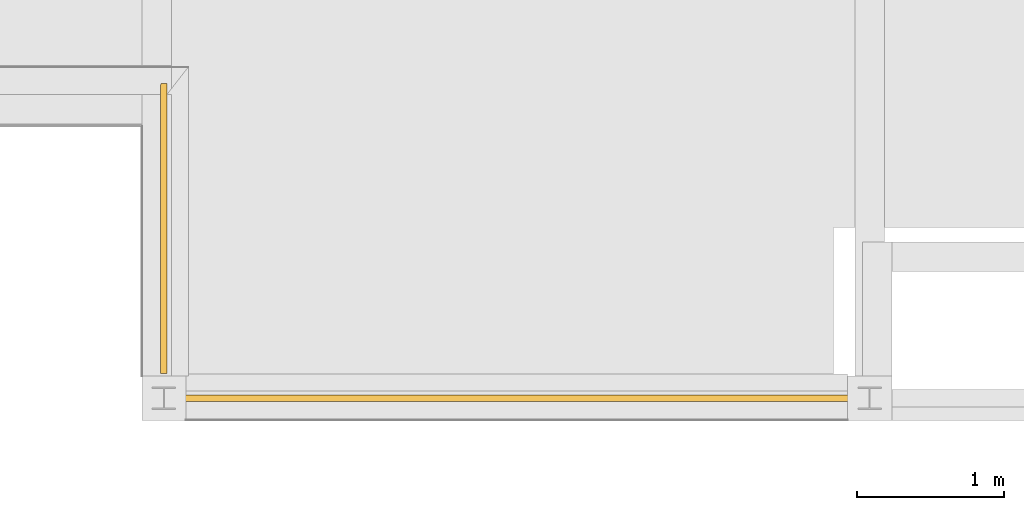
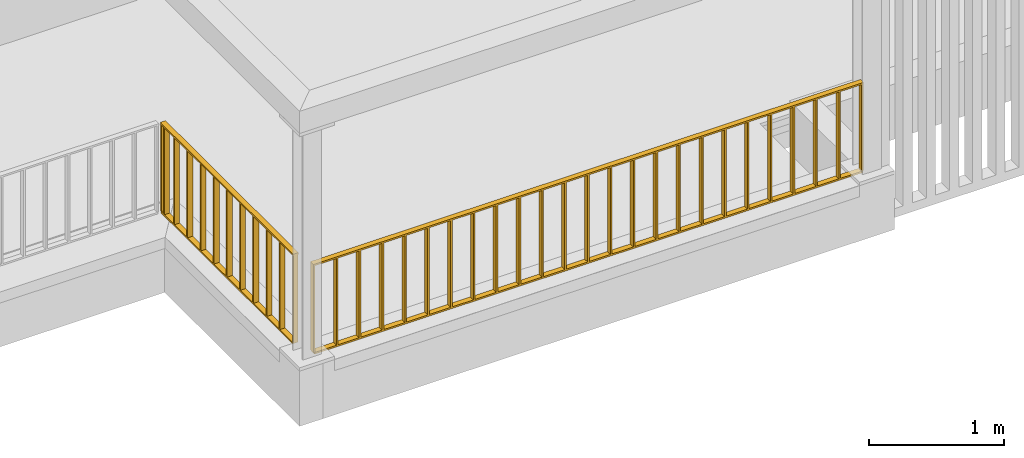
# One storey, part 21 of 36: 2 railings.
"""IFC4 building model written with IfcOpenShell, lengths in millimetres."""

from ifc_helpers import new_model, entity, si_unit, converted_unit, derived_unit, direction, frame, origin_with_axes, place, context, subcontext, project, spatial, polygons, material, constituent, constituent_set, type_object, element, save


model = new_model("IFC4")

# Units and contexts
model_context = context("Model", 3, precision=0.01, world=origin_with_axes(), true_north=direction((0.0, 1.0)))
body_context = subcontext(model_context, "Body", "Model", "MODEL_VIEW")
ifc_project = project(units=[si_unit("LENGTHUNIT", "METRE", prefix="MILLI"), si_unit("AREAUNIT", "SQUARE_METRE"), si_unit("VOLUMEUNIT", "CUBIC_METRE"), converted_unit("PLANEANGLEUNIT", "DEGREE", entity("IfcPlaneAngleMeasure", 0.0174532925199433), si_unit("PLANEANGLEUNIT", "RADIAN"), dimensions=[0, 0, 0, 0, 0, 0, 0]), converted_unit("TIMEUNIT", "Year", entity("IfcTimeMeasure", 31557600.0), si_unit("TIMEUNIT", "SECOND"), dimensions=[0, 0, 1, 0, 0, 0, 0]), si_unit("MASSUNIT", "GRAM", prefix="KILO"), si_unit("THERMODYNAMICTEMPERATUREUNIT", "DEGREE_CELSIUS"), si_unit("LUMINOUSINTENSITYUNIT", "LUMEN"), si_unit("ENERGYUNIT", "JOULE", prefix="MEGA"), derived_unit("THERMALCONDUCTANCEUNIT", [(si_unit("POWERUNIT", "WATT"), 1), (si_unit("LENGTHUNIT", "METRE"), -1), (si_unit("THERMODYNAMICTEMPERATUREUNIT", "KELVIN"), -1)]), derived_unit("SPECIFICHEATCAPACITYUNIT", [(si_unit("ENERGYUNIT", "JOULE"), 1), (si_unit("MASSUNIT", "GRAM", prefix="KILO"), -1), (si_unit("THERMODYNAMICTEMPERATUREUNIT", "KELVIN"), -1)]), derived_unit("MASSDENSITYUNIT", [(si_unit("MASSUNIT", "GRAM", prefix="KILO"), 1), (si_unit("VOLUMEUNIT", "CUBIC_METRE"), -1)])], contexts=[model_context])

# Site, building, storey
site_placement = place(None, origin_with_axes())
site = spatial("IfcSite", under=ifc_project, at=site_placement, Name="Gelände", CompositionType="ELEMENT")
building_placement = place(site_placement, origin_with_axes())
building = spatial("IfcBuilding", under=site, at=building_placement, Name="Gebäude", CompositionType="ELEMENT")
storey_placement = place(building_placement, frame((0.0, 0.0, 8700.0), z_axis=(0.0, 0.0, 1.0), x_axis=(1.0, 0.0, 0.0)))
storey = spatial("IfcBuildingStorey", under=building, at=storey_placement, Name="Attika", CompositionType="ELEMENT", Elevation=8700.0)

# Railings
ifc_material = material(Name="Stahl")
ifc_constituent_1 = constituent(ifc_material, Name="Stahl 1")
ifc_constituent_2 = constituent(ifc_material, Name="Stahl 2")
ifc_constituent_3 = constituent(ifc_material, Name="Stahl 3")
ifc_constituent_4 = constituent(ifc_material, Name="Stahl 4")
ifc_constituent_5 = constituent(ifc_material, Name="Stahl 5")
ifc_constituent_6 = constituent(ifc_material, Name="Stahl 6")
ifc_constituent_7 = constituent(ifc_material, Name="Stahl 7")
ifc_constituent_8 = constituent(ifc_material, Name="Stahl 8")
ifc_constituent_9 = constituent(ifc_material, Name="Stahl 9")
ifc_constituent_10 = constituent(ifc_material, Name="Stahl 10")
ifc_constituent_11 = constituent(ifc_material, Name="Stahl 11")
ifc_constituent_12 = constituent(ifc_material, Name="Stahl 12")
ifc_constituent_13 = constituent(ifc_material, Name="Stahl 13")
ifc_constituent_14 = constituent(ifc_material, Name="Stahl 14")
ifc_constituent_15 = constituent(ifc_material, Name="Stahl 15")
ifc_constituent_16 = constituent(ifc_material, Name="Stahl 16")
ifc_constituent_17 = constituent(ifc_material, Name="Stahl 17")
ifc_constituent_18 = constituent(ifc_material, Name="Stahl 18")
ifc_constituent_set_1 = constituent_set(constituents=[ifc_constituent_1, ifc_constituent_2, ifc_constituent_3, ifc_constituent_4, ifc_constituent_5, ifc_constituent_6, ifc_constituent_7, ifc_constituent_8, ifc_constituent_9, ifc_constituent_10, ifc_constituent_11, ifc_constituent_12, ifc_constituent_13, ifc_constituent_14, ifc_constituent_15, ifc_constituent_16, ifc_constituent_17, ifc_constituent_18])
railing_type = type_object("IfcRailingType", Name="Geländerart", PredefinedType="NOTDEFINED")
railing_1_placement = place(storey_placement, frame((-3675.20418150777, 21082.25159272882, 519.9999999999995), z_axis=(0.0, 0.0, 1.0), x_axis=(0.0, 1.0, 0.0)))
element("IfcRailing", 1, at=railing_1_placement, inside=storey, type_object=railing_type, material=ifc_constituent_set_1, Name="Geländer-003", PredefinedType="NOTDEFINED", context=body_context, shape_type="Tessellation", body=[
    polygons([(196.5594620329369, 20.00000000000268, 0.0), (196.5594620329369, 20.00000000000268, 800.0000000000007), (196.5594620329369, -19.99999999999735, 800.0000000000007), (196.5594620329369, -19.99999999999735, 0.0), (181.5594620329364, 20.00000000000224, 0.0), (181.5594620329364, 20.00000000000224, 800.0000000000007), (181.5594620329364, -19.9999999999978, 800.0000000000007), (181.5594620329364, -19.9999999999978, 0.0)], [[[1, 2, 3, 4]], [[5, 6, 2, 1]], [[2, 6, 7, 3]], [[4, 3, 7, 8]], [[1, 4, 8, 5]], [[8, 7, 6, 5]]], closed=True),
    polygons([(189.0594620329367, 22.50000000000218, 800.0000000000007), (189.0594620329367, 22.50000000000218, 785.0000000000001), (181.5594620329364, 22.50000000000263, 785.0000000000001), (181.5594620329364, 22.50000000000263, 800.0000000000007), (189.0594620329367, -22.49999999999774, 800.0000000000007), (189.0594620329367, -22.49999999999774, 785.0000000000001), (181.5594620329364, -22.4999999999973, 785.0000000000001), (181.5594620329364, -22.4999999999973, 800.0000000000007)], [[[1, 2, 3, 4]], [[1, 5, 6, 2]], [[2, 6, 7, 3]], [[4, 3, 7, 8]], [[5, 1, 4, 8]], [[6, 5, 8, 7]]], closed=True),
    polygons([(2151.059462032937, 20.00000000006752, 0.0), (2151.059462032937, 20.00000000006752, 800.0000000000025), (2151.059462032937, -19.99999999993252, 800.0000000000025), (2151.059462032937, -19.99999999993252, 0.0), (2136.059462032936, 20.00000000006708, 0.0), (2136.059462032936, 20.00000000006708, 800.0000000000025), (2136.059462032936, -19.99999999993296, 800.0000000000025), (2136.059462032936, -19.99999999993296, 0.0)], [[[1, 2, 3, 4]], [[5, 6, 2, 1]], [[2, 6, 7, 3]], [[4, 3, 7, 8]], [[1, 4, 8, 5]], [[8, 7, 6, 5]]], closed=True),
    polygons([(2090.896496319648, -19.99999999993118, 0.0), (2090.896496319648, -19.99999999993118, 800.0000000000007), (2090.896496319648, 20.00000000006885, 800.0000000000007), (2090.896496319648, 20.00000000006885, 0.0), (2105.896496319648, -19.99999999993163, 0.0), (2105.896496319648, -19.99999999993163, 800.0000000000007), (2105.896496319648, 20.00000000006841, 800.0000000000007), (2105.896496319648, 20.00000000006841, 0.0)], [[[1, 2, 3, 4]], [[5, 6, 2, 1]], [[2, 6, 7, 3]], [[4, 3, 7, 8]], [[1, 4, 8, 5]], [[8, 7, 6, 5]]], closed=True),
    polygons([(2098.396496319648, 22.50000000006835, 800.0000000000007), (2098.396496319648, 22.50000000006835, 785.0000000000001), (2090.896496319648, 22.5000000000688, 785.0000000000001), (2090.896496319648, 22.5000000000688, 800.0000000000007), (2098.396496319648, -22.49999999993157, 800.0000000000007), (2098.396496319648, -22.49999999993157, 785.0000000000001), (2090.896496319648, -22.49999999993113, 785.0000000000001), (2090.896496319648, -22.49999999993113, 800.0000000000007)], [[[1, 2, 3, 4]], [[1, 5, 6, 2]], [[2, 6, 7, 3]], [[4, 3, 7, 8]], [[5, 1, 4, 8]], [[6, 5, 8, 7]]], closed=True),
    polygons([(189.0594620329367, -22.49999999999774, 0.9999999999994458), (189.0594620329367, -22.49999999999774, -14.00000000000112), (2143.559462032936, -22.49999999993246, -13.99999999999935), (2143.559462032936, -22.49999999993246, 1.000000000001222), (189.0594620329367, 22.50000000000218, 0.9999999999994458), (189.0594620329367, 22.50000000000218, -14.00000000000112), (2143.559462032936, 22.50000000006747, -13.99999999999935), (2143.559462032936, 22.50000000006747, 1.000000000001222)], [[[1, 2, 3, 4]], [[1, 5, 6, 2]], [[2, 6, 7, 3]], [[4, 3, 7, 8]], [[5, 1, 4, 8]], [[6, 5, 8, 7]]], closed=True),
    polygons([(189.0594620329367, -22.49999999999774, 800.0000000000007), (189.0594620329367, -22.49999999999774, 785.0000000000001), (2143.559462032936, -22.49999999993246, 785.0000000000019), (2143.559462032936, -22.49999999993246, 800.0000000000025), (189.0594620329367, 22.50000000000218, 800.0000000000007), (189.0594620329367, 22.50000000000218, 785.0000000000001), (2143.559462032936, 22.50000000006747, 785.0000000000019), (2143.559462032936, 22.50000000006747, 800.0000000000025)], [[[1, 2, 3, 4]], [[1, 5, 6, 2]], [[2, 6, 7, 3]], [[4, 3, 7, 8]], [[5, 1, 4, 8]], [[6, 5, 8, 7]]], closed=True),
    polygons([(392.009462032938, 22.50000000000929, 0.0), (392.009462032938, 22.50000000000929, 785.2293691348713), (392.009462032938, -22.49999999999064, 785.2293691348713), (392.009462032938, -22.49999999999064, 0.0), (377.0094620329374, 22.50000000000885, 0.0), (377.0094620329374, 22.50000000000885, 785.2293691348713), (377.0094620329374, -22.49999999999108, 785.2293691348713), (377.0094620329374, -22.49999999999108, 0.0)], [[[1, 2, 3, 4]], [[5, 6, 2, 1]], [[2, 6, 7, 3]], [[4, 3, 7, 8]], [[1, 4, 8, 5]], [[8, 7, 6, 5]]], closed=True),
    polygons([(587.4594620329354, 22.50000000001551, 0.0), (587.4594620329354, 22.50000000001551, 785.2293691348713), (587.4594620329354, -22.49999999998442, 785.2293691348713), (587.4594620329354, -22.49999999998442, 0.0), (572.4594620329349, 22.50000000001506, 0.0), (572.4594620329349, 22.50000000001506, 785.2293691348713), (572.4594620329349, -22.49999999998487, 785.2293691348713), (572.4594620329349, -22.49999999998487, 0.0)], [[[1, 2, 3, 4]], [[5, 6, 2, 1]], [[2, 6, 7, 3]], [[4, 3, 7, 8]], [[1, 4, 8, 5]], [[8, 7, 6, 5]]], closed=True),
    polygons([(782.9094620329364, 22.50000000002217, 0.0), (782.9094620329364, 22.50000000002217, 785.2293691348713), (782.9094620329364, -22.49999999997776, 785.2293691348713), (782.9094620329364, -22.49999999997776, 0.0), (767.9094620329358, 22.50000000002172, 0.0), (767.9094620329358, 22.50000000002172, 785.2293691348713), (767.9094620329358, -22.4999999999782, 785.2293691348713), (767.9094620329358, -22.4999999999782, 0.0)], [[[1, 2, 3, 4]], [[5, 6, 2, 1]], [[2, 6, 7, 3]], [[4, 3, 7, 8]], [[1, 4, 8, 5]], [[8, 7, 6, 5]]], closed=True),
    polygons([(978.3594620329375, 22.50000000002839, 0.0), (978.3594620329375, 22.50000000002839, 785.2293691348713), (978.3594620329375, -22.49999999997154, 785.2293691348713), (978.3594620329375, -22.49999999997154, 0.0), (963.3594620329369, 22.50000000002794, 0.0), (963.3594620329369, 22.50000000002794, 785.2293691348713), (963.3594620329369, -22.49999999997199, 785.2293691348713), (963.3594620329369, -22.49999999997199, 0.0)], [[[1, 2, 3, 4]], [[5, 6, 2, 1]], [[2, 6, 7, 3]], [[4, 3, 7, 8]], [[1, 4, 8, 5]], [[8, 7, 6, 5]]], closed=True),
    polygons([(1173.809462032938, 22.50000000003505, 0.0), (1173.809462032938, 22.50000000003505, 785.2293691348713), (1173.809462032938, -22.49999999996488, 785.2293691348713), (1173.809462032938, -22.49999999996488, 0.0), (1158.809462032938, 22.5000000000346, 0.0), (1158.809462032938, 22.5000000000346, 785.2293691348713), (1158.809462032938, -22.49999999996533, 785.2293691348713), (1158.809462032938, -22.49999999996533, 0.0)], [[[1, 2, 3, 4]], [[5, 6, 2, 1]], [[2, 6, 7, 3]], [[4, 3, 7, 8]], [[1, 4, 8, 5]], [[8, 7, 6, 5]]], closed=True),
    polygons([(1369.259462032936, 22.50000000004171, 0.0), (1369.259462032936, 22.50000000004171, 785.2293691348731), (1369.259462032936, -22.49999999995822, 785.2293691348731), (1369.259462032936, -22.49999999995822, 0.0), (1354.259462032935, 22.50000000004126, 0.0), (1354.259462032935, 22.50000000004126, 785.2293691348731), (1354.259462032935, -22.49999999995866, 785.2293691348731), (1354.259462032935, -22.49999999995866, 0.0)], [[[1, 2, 3, 4]], [[5, 6, 2, 1]], [[2, 6, 7, 3]], [[4, 3, 7, 8]], [[1, 4, 8, 5]], [[8, 7, 6, 5]]], closed=True),
    polygons([(1564.709462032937, 22.50000000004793, 0.0), (1564.709462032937, 22.50000000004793, 785.2293691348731), (1564.709462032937, -22.499999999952, 785.2293691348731), (1564.709462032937, -22.499999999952, 0.0), (1549.709462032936, 22.50000000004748, 0.0), (1549.709462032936, 22.50000000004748, 785.2293691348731), (1549.709462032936, -22.49999999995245, 785.2293691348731), (1549.709462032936, -22.49999999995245, 0.0)], [[[1, 2, 3, 4]], [[5, 6, 2, 1]], [[2, 6, 7, 3]], [[4, 3, 7, 8]], [[1, 4, 8, 5]], [[8, 7, 6, 5]]], closed=True),
    polygons([(1760.159462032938, 22.50000000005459, 0.0), (1760.159462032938, 22.50000000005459, 785.2293691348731), (1760.159462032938, -22.49999999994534, 785.2293691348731), (1760.159462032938, -22.49999999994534, 0.0), (1745.159462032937, 22.50000000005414, 0.0), (1745.159462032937, 22.50000000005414, 785.2293691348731), (1745.159462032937, -22.49999999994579, 785.2293691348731), (1745.159462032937, -22.49999999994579, 0.0)], [[[1, 2, 3, 4]], [[5, 6, 2, 1]], [[2, 6, 7, 3]], [[4, 3, 7, 8]], [[1, 4, 8, 5]], [[8, 7, 6, 5]]], closed=True),
    polygons([(1955.609462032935, 22.5000000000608, 0.0), (1955.609462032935, 22.5000000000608, 785.2293691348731), (1955.609462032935, -22.49999999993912, 785.2293691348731), (1955.609462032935, -22.49999999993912, 0.0), (1940.609462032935, 22.50000000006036, 0.0), (1940.609462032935, 22.50000000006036, 785.2293691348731), (1940.609462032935, -22.49999999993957, 785.2293691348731), (1940.609462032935, -22.49999999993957, 0.0)], [[[1, 2, 3, 4]], [[5, 6, 2, 1]], [[2, 6, 7, 3]], [[4, 3, 7, 8]], [[1, 4, 8, 5]], [[8, 7, 6, 5]]], closed=True),
    polygons([(2143.559462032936, 22.50000000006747, 1.000000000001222), (2143.559462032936, 22.50000000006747, -13.99999999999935), (2098.396496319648, 22.50000000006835, -14.00000000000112), (2098.396496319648, 22.50000000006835, 0.9999999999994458), (2143.559462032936, -22.49999999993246, 1.000000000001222), (2143.559462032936, -22.49999999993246, -13.99999999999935), (2098.396496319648, -22.49999999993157, -14.00000000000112), (2098.396496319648, -22.49999999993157, 0.9999999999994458)], [[[1, 2, 3, 4]], [[1, 5, 6, 2]], [[2, 6, 7, 3]], [[4, 3, 7, 8]], [[5, 1, 4, 8]], [[6, 5, 8, 7]]], closed=True),
    polygons([(2143.559462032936, 22.50000000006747, 800.0000000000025), (2143.559462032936, 22.50000000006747, 785.0000000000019), (2098.396496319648, 22.50000000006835, 785.0000000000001), (2098.396496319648, 22.50000000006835, 800.0000000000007), (2143.559462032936, -22.49999999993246, 800.0000000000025), (2143.559462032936, -22.49999999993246, 785.0000000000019), (2098.396496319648, -22.49999999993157, 785.0000000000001), (2098.396496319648, -22.49999999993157, 800.0000000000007)], [[[1, 2, 3, 4]], [[1, 5, 6, 2]], [[2, 6, 7, 3]], [[4, 3, 7, 8]], [[5, 1, 4, 8]], [[6, 5, 8, 7]]], closed=True),
])
ifc_constituent_19 = constituent(ifc_material, Name="Stahl 1")
ifc_constituent_20 = constituent(ifc_material, Name="Stahl 2")
ifc_constituent_21 = constituent(ifc_material, Name="Stahl 3")
ifc_constituent_22 = constituent(ifc_material, Name="Stahl 4")
ifc_constituent_23 = constituent(ifc_material, Name="Stahl 5")
ifc_constituent_24 = constituent(ifc_material, Name="Stahl 6")
ifc_constituent_25 = constituent(ifc_material, Name="Stahl 7")
ifc_constituent_26 = constituent(ifc_material, Name="Stahl 8")
ifc_constituent_27 = constituent(ifc_material, Name="Stahl 9")
ifc_constituent_28 = constituent(ifc_material, Name="Stahl 10")
ifc_constituent_29 = constituent(ifc_material, Name="Stahl 11")
ifc_constituent_30 = constituent(ifc_material, Name="Stahl 12")
ifc_constituent_31 = constituent(ifc_material, Name="Stahl 13")
ifc_constituent_32 = constituent(ifc_material, Name="Stahl 14")
ifc_constituent_33 = constituent(ifc_material, Name="Stahl 15")
ifc_constituent_34 = constituent(ifc_material, Name="Stahl 16")
ifc_constituent_35 = constituent(ifc_material, Name="Stahl 17")
ifc_constituent_36 = constituent(ifc_material, Name="Stahl 18")
ifc_constituent_37 = constituent(ifc_material, Name="Stahl 19")
ifc_constituent_38 = constituent(ifc_material, Name="Stahl 20")
ifc_constituent_39 = constituent(ifc_material, Name="Stahl 21")
ifc_constituent_40 = constituent(ifc_material, Name="Stahl 22")
ifc_constituent_41 = constituent(ifc_material, Name="Stahl 23")
ifc_constituent_42 = constituent(ifc_material, Name="Stahl 24")
ifc_constituent_43 = constituent(ifc_material, Name="Stahl 25")
ifc_constituent_44 = constituent(ifc_material, Name="Stahl 26")
ifc_constituent_45 = constituent(ifc_material, Name="Stahl 27")
ifc_constituent_46 = constituent(ifc_material, Name="Stahl 28")
ifc_constituent_47 = constituent(ifc_material, Name="Stahl 29")
ifc_constituent_set_2 = constituent_set(constituents=[ifc_constituent_19, ifc_constituent_20, ifc_constituent_21, ifc_constituent_22, ifc_constituent_23, ifc_constituent_24, ifc_constituent_25, ifc_constituent_26, ifc_constituent_27, ifc_constituent_28, ifc_constituent_29, ifc_constituent_30, ifc_constituent_31, ifc_constituent_32, ifc_constituent_33, ifc_constituent_34, ifc_constituent_35, ifc_constituent_36, ifc_constituent_37, ifc_constituent_38, ifc_constituent_39, ifc_constituent_40, ifc_constituent_41, ifc_constituent_42, ifc_constituent_43, ifc_constituent_44, ifc_constituent_45, ifc_constituent_46, ifc_constituent_47])
railing_2_placement = place(storey_placement, frame((-3814.263643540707, 21097.59674077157, 519.9999999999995), z_axis=(0.0, 0.0, 1.0), x_axis=(1.0, 0.0, 0.0)))
element("IfcRailing", 2, at=railing_2_placement, inside=storey, type_object=railing_type, material=ifc_constituent_set_2, Name="Geländer-003", PredefinedType="NOTDEFINED", context=body_context, shape_type="Tessellation", body=[
    polygons([(196.5594620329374, -19.99999999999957, 0.0), (196.5594620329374, 19.99999999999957, 0.0), (196.5594620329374, 19.99999999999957, 800.0000000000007), (196.5594620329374, -19.99999999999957, 800.0000000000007), (181.5594620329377, -19.99999999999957, 0.0), (181.5594620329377, 19.99999999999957, 0.0), (181.5594620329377, 19.99999999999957, 800.0000000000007), (181.5594620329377, -19.99999999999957, 800.0000000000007)], [[[1, 2, 3, 4]], [[1, 5, 6, 2]], [[2, 6, 7, 3]], [[4, 3, 7, 8]], [[5, 1, 4, 8]], [[6, 5, 8, 7]]], closed=True),
    polygons([(189.0594620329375, 22.50000000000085, 800.0000000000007), (189.0594620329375, 22.50000000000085, 785.0000000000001), (181.5594620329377, 22.50000000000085, 785.0000000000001), (181.5594620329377, 22.50000000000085, 800.0000000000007), (189.0594620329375, -22.50000000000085, 800.0000000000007), (189.0594620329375, -22.50000000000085, 785.0000000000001), (181.5594620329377, -22.50000000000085, 785.0000000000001), (181.5594620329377, -22.50000000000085, 800.0000000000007)], [[[1, 2, 3, 4]], [[1, 5, 6, 2]], [[2, 6, 7, 3]], [[4, 3, 7, 8]], [[5, 1, 4, 8]], [[6, 5, 8, 7]]], closed=True),
    polygons([(4887.359462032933, -19.99999999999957, 0.0), (4887.359462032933, 19.99999999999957, 0.0), (4887.359462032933, 19.99999999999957, 800.0000000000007), (4887.359462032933, -19.99999999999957, 800.0000000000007), (4872.359462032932, -19.99999999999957, 0.0), (4872.359462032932, 19.99999999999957, 0.0), (4872.359462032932, 19.99999999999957, 800.0000000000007), (4872.359462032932, -19.99999999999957, 800.0000000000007)], [[[1, 2, 3, 4]], [[1, 5, 6, 2]], [[2, 6, 7, 3]], [[4, 3, 7, 8]], [[5, 1, 4, 8]], [[6, 5, 8, 7]]], closed=True),
    polygons([(4879.859462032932, -22.50000000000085, 800.0000000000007), (4879.859462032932, -22.50000000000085, 785.0000000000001), (4887.359462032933, -22.50000000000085, 785.0000000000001), (4887.359462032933, -22.50000000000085, 800.0000000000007), (4879.859462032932, 22.50000000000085, 800.0000000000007), (4879.859462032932, 22.50000000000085, 785.0000000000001), (4887.359462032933, 22.50000000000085, 785.0000000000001), (4887.359462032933, 22.50000000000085, 800.0000000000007)], [[[1, 2, 3, 4]], [[1, 5, 6, 2]], [[2, 6, 7, 3]], [[4, 3, 7, 8]], [[5, 1, 4, 8]], [[6, 5, 8, 7]]], closed=True),
    polygons([(189.0594620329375, -22.50000000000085, 0.9999999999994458), (189.0594620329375, -22.50000000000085, -13.99999999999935), (4879.859462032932, -22.50000000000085, -13.99999999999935), (4879.859462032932, -22.50000000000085, 0.9999999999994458), (189.0594620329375, 22.50000000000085, 0.9999999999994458), (189.0594620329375, 22.50000000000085, -13.99999999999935), (4879.859462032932, 22.50000000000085, -13.99999999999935), (4879.859462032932, 22.50000000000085, 0.9999999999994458)], [[[1, 2, 3, 4]], [[1, 5, 6, 2]], [[2, 6, 7, 3]], [[4, 3, 7, 8]], [[5, 1, 4, 8]], [[6, 5, 8, 7]]], closed=True),
    polygons([(189.0594620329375, -22.50000000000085, 800.0000000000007), (189.0594620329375, -22.50000000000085, 785.0000000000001), (4879.859462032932, -22.50000000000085, 785.0000000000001), (4879.859462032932, -22.50000000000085, 800.0000000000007), (189.0594620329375, 22.50000000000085, 800.0000000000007), (189.0594620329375, 22.50000000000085, 785.0000000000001), (4879.859462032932, 22.50000000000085, 785.0000000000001), (4879.859462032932, 22.50000000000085, 800.0000000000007)], [[[1, 2, 3, 4]], [[1, 5, 6, 2]], [[2, 6, 7, 3]], [[4, 3, 7, 8]], [[5, 1, 4, 8]], [[6, 5, 8, 7]]], closed=True),
    polygons([(392.0094620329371, -22.50000000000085, 0.0), (392.0094620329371, 22.50000000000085, 0.0), (392.0094620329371, 22.50000000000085, 785.2293691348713), (392.0094620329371, -22.50000000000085, 785.2293691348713), (377.0094620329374, -22.50000000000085, 0.0), (377.0094620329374, 22.50000000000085, 0.0), (377.0094620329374, 22.50000000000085, 785.2293691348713), (377.0094620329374, -22.50000000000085, 785.2293691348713)], [[[1, 2, 3, 4]], [[1, 5, 6, 2]], [[2, 6, 7, 3]], [[4, 3, 7, 8]], [[5, 1, 4, 8]], [[6, 5, 8, 7]]], closed=True),
    polygons([(587.4594620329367, -22.50000000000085, 0.0), (587.4594620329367, 22.50000000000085, 0.0), (587.4594620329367, 22.50000000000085, 785.2293691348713), (587.4594620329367, -22.50000000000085, 785.2293691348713), (572.459462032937, -22.50000000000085, 0.0), (572.459462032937, 22.50000000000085, 0.0), (572.459462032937, 22.50000000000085, 785.2293691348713), (572.459462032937, -22.50000000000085, 785.2293691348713)], [[[1, 2, 3, 4]], [[1, 5, 6, 2]], [[2, 6, 7, 3]], [[4, 3, 7, 8]], [[5, 1, 4, 8]], [[6, 5, 8, 7]]], closed=True),
    polygons([(782.9094620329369, -22.50000000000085, 0.0), (782.9094620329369, 22.50000000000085, 0.0), (782.9094620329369, 22.50000000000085, 785.2293691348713), (782.9094620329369, -22.50000000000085, 785.2293691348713), (767.9094620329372, -22.50000000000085, 0.0), (767.9094620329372, 22.50000000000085, 0.0), (767.9094620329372, 22.50000000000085, 785.2293691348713), (767.9094620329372, -22.50000000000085, 785.2293691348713)], [[[1, 2, 3, 4]], [[1, 5, 6, 2]], [[2, 6, 7, 3]], [[4, 3, 7, 8]], [[5, 1, 4, 8]], [[6, 5, 8, 7]]], closed=True),
    polygons([(978.3594620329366, -22.50000000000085, 0.0), (978.3594620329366, 22.50000000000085, 0.0), (978.3594620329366, 22.50000000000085, 785.2293691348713), (978.3594620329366, -22.50000000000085, 785.2293691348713), (963.3594620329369, -22.50000000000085, 0.0), (963.3594620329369, 22.50000000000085, 0.0), (963.3594620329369, 22.50000000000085, 785.2293691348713), (963.3594620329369, -22.50000000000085, 785.2293691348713)], [[[1, 2, 3, 4]], [[1, 5, 6, 2]], [[2, 6, 7, 3]], [[4, 3, 7, 8]], [[5, 1, 4, 8]], [[6, 5, 8, 7]]], closed=True),
    polygons([(1173.809462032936, -22.50000000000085, 0.0), (1173.809462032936, 22.50000000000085, 0.0), (1173.809462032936, 22.50000000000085, 785.2293691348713), (1173.809462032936, -22.50000000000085, 785.2293691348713), (1158.809462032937, -22.50000000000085, 0.0), (1158.809462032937, 22.50000000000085, 0.0), (1158.809462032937, 22.50000000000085, 785.2293691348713), (1158.809462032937, -22.50000000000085, 785.2293691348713)], [[[1, 2, 3, 4]], [[1, 5, 6, 2]], [[2, 6, 7, 3]], [[4, 3, 7, 8]], [[5, 1, 4, 8]], [[6, 5, 8, 7]]], closed=True),
    polygons([(1369.259462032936, -22.50000000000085, 0.0), (1369.259462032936, 22.50000000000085, 0.0), (1369.259462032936, 22.50000000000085, 785.2293691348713), (1369.259462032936, -22.50000000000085, 785.2293691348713), (1354.259462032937, -22.50000000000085, 0.0), (1354.259462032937, 22.50000000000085, 0.0), (1354.259462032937, 22.50000000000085, 785.2293691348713), (1354.259462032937, -22.50000000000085, 785.2293691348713)], [[[1, 2, 3, 4]], [[1, 5, 6, 2]], [[2, 6, 7, 3]], [[4, 3, 7, 8]], [[5, 1, 4, 8]], [[6, 5, 8, 7]]], closed=True),
    polygons([(1564.709462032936, -22.50000000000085, 0.0), (1564.709462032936, 22.50000000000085, 0.0), (1564.709462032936, 22.50000000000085, 785.2293691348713), (1564.709462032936, -22.50000000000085, 785.2293691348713), (1549.709462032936, -22.50000000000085, 0.0), (1549.709462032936, 22.50000000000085, 0.0), (1549.709462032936, 22.50000000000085, 785.2293691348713), (1549.709462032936, -22.50000000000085, 785.2293691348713)], [[[1, 2, 3, 4]], [[1, 5, 6, 2]], [[2, 6, 7, 3]], [[4, 3, 7, 8]], [[5, 1, 4, 8]], [[6, 5, 8, 7]]], closed=True),
    polygons([(1760.159462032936, -22.50000000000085, 0.0), (1760.159462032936, 22.50000000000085, 0.0), (1760.159462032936, 22.50000000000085, 785.2293691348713), (1760.159462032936, -22.50000000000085, 785.2293691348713), (1745.159462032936, -22.50000000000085, 0.0), (1745.159462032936, 22.50000000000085, 0.0), (1745.159462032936, 22.50000000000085, 785.2293691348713), (1745.159462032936, -22.50000000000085, 785.2293691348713)], [[[1, 2, 3, 4]], [[1, 5, 6, 2]], [[2, 6, 7, 3]], [[4, 3, 7, 8]], [[5, 1, 4, 8]], [[6, 5, 8, 7]]], closed=True),
    polygons([(1955.609462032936, -22.50000000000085, 0.0), (1955.609462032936, 22.50000000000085, 0.0), (1955.609462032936, 22.50000000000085, 785.2293691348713), (1955.609462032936, -22.50000000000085, 785.2293691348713), (1940.609462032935, -22.50000000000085, 0.0), (1940.609462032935, 22.50000000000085, 0.0), (1940.609462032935, 22.50000000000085, 785.2293691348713), (1940.609462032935, -22.50000000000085, 785.2293691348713)], [[[1, 2, 3, 4]], [[1, 5, 6, 2]], [[2, 6, 7, 3]], [[4, 3, 7, 8]], [[5, 1, 4, 8]], [[6, 5, 8, 7]]], closed=True),
    polygons([(2151.059462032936, -22.50000000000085, 0.0), (2151.059462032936, 22.50000000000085, 0.0), (2151.059462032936, 22.50000000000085, 785.2293691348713), (2151.059462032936, -22.50000000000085, 785.2293691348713), (2136.059462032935, -22.50000000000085, 0.0), (2136.059462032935, 22.50000000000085, 0.0), (2136.059462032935, 22.50000000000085, 785.2293691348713), (2136.059462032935, -22.50000000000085, 785.2293691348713)], [[[1, 2, 3, 4]], [[1, 5, 6, 2]], [[2, 6, 7, 3]], [[4, 3, 7, 8]], [[5, 1, 4, 8]], [[6, 5, 8, 7]]], closed=True),
    polygons([(2346.509462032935, -22.50000000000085, 0.0), (2346.509462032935, 22.50000000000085, 0.0), (2346.509462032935, 22.50000000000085, 785.2293691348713), (2346.509462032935, -22.50000000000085, 785.2293691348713), (2331.509462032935, -22.50000000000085, 0.0), (2331.509462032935, 22.50000000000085, 0.0), (2331.509462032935, 22.50000000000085, 785.2293691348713), (2331.509462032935, -22.50000000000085, 785.2293691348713)], [[[1, 2, 3, 4]], [[1, 5, 6, 2]], [[2, 6, 7, 3]], [[4, 3, 7, 8]], [[5, 1, 4, 8]], [[6, 5, 8, 7]]], closed=True),
    polygons([(2541.959462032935, -22.50000000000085, 0.0), (2541.959462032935, 22.50000000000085, 0.0), (2541.959462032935, 22.50000000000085, 785.2293691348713), (2541.959462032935, -22.50000000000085, 785.2293691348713), (2526.959462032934, -22.50000000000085, 0.0), (2526.959462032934, 22.50000000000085, 0.0), (2526.959462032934, 22.50000000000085, 785.2293691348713), (2526.959462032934, -22.50000000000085, 785.2293691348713)], [[[1, 2, 3, 4]], [[1, 5, 6, 2]], [[2, 6, 7, 3]], [[4, 3, 7, 8]], [[5, 1, 4, 8]], [[6, 5, 8, 7]]], closed=True),
    polygons([(2737.409462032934, -22.50000000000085, 0.0), (2737.409462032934, 22.50000000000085, 0.0), (2737.409462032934, 22.50000000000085, 785.2293691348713), (2737.409462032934, -22.50000000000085, 785.2293691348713), (2722.409462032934, -22.50000000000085, 0.0), (2722.409462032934, 22.50000000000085, 0.0), (2722.409462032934, 22.50000000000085, 785.2293691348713), (2722.409462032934, -22.50000000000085, 785.2293691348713)], [[[1, 2, 3, 4]], [[1, 5, 6, 2]], [[2, 6, 7, 3]], [[4, 3, 7, 8]], [[5, 1, 4, 8]], [[6, 5, 8, 7]]], closed=True),
    polygons([(2932.859462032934, -22.50000000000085, 0.0), (2932.859462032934, 22.50000000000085, 0.0), (2932.859462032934, 22.50000000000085, 785.2293691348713), (2932.859462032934, -22.50000000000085, 785.2293691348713), (2917.859462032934, -22.50000000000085, 0.0), (2917.859462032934, 22.50000000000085, 0.0), (2917.859462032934, 22.50000000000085, 785.2293691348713), (2917.859462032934, -22.50000000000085, 785.2293691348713)], [[[1, 2, 3, 4]], [[1, 5, 6, 2]], [[2, 6, 7, 3]], [[4, 3, 7, 8]], [[5, 1, 4, 8]], [[6, 5, 8, 7]]], closed=True),
    polygons([(3128.309462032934, -22.50000000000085, 0.0), (3128.309462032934, 22.50000000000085, 0.0), (3128.309462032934, 22.50000000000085, 785.2293691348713), (3128.309462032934, -22.50000000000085, 785.2293691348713), (3113.309462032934, -22.50000000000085, 0.0), (3113.309462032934, 22.50000000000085, 0.0), (3113.309462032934, 22.50000000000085, 785.2293691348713), (3113.309462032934, -22.50000000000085, 785.2293691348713)], [[[1, 2, 3, 4]], [[1, 5, 6, 2]], [[2, 6, 7, 3]], [[4, 3, 7, 8]], [[5, 1, 4, 8]], [[6, 5, 8, 7]]], closed=True),
    polygons([(3323.759462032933, -22.50000000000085, 0.0), (3323.759462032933, 22.50000000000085, 0.0), (3323.759462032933, 22.50000000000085, 785.2293691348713), (3323.759462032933, -22.50000000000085, 785.2293691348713), (3308.759462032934, -22.50000000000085, 0.0), (3308.759462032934, 22.50000000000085, 0.0), (3308.759462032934, 22.50000000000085, 785.2293691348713), (3308.759462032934, -22.50000000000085, 785.2293691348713)], [[[1, 2, 3, 4]], [[1, 5, 6, 2]], [[2, 6, 7, 3]], [[4, 3, 7, 8]], [[5, 1, 4, 8]], [[6, 5, 8, 7]]], closed=True),
    polygons([(3519.209462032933, -22.50000000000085, 0.0), (3519.209462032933, 22.50000000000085, 0.0), (3519.209462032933, 22.50000000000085, 785.2293691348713), (3519.209462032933, -22.50000000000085, 785.2293691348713), (3504.209462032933, -22.50000000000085, 0.0), (3504.209462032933, 22.50000000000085, 0.0), (3504.209462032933, 22.50000000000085, 785.2293691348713), (3504.209462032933, -22.50000000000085, 785.2293691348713)], [[[1, 2, 3, 4]], [[1, 5, 6, 2]], [[2, 6, 7, 3]], [[4, 3, 7, 8]], [[5, 1, 4, 8]], [[6, 5, 8, 7]]], closed=True),
    polygons([(3714.659462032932, -22.50000000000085, 0.0), (3714.659462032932, 22.50000000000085, 0.0), (3714.659462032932, 22.50000000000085, 785.2293691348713), (3714.659462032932, -22.50000000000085, 785.2293691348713), (3699.659462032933, -22.50000000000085, 0.0), (3699.659462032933, 22.50000000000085, 0.0), (3699.659462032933, 22.50000000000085, 785.2293691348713), (3699.659462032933, -22.50000000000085, 785.2293691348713)], [[[1, 2, 3, 4]], [[1, 5, 6, 2]], [[2, 6, 7, 3]], [[4, 3, 7, 8]], [[5, 1, 4, 8]], [[6, 5, 8, 7]]], closed=True),
    polygons([(3910.109462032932, -22.50000000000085, 0.0), (3910.109462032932, 22.50000000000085, 0.0), (3910.109462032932, 22.50000000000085, 785.2293691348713), (3910.109462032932, -22.50000000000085, 785.2293691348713), (3895.109462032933, -22.50000000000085, 0.0), (3895.109462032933, 22.50000000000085, 0.0), (3895.109462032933, 22.50000000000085, 785.2293691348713), (3895.109462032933, -22.50000000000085, 785.2293691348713)], [[[1, 2, 3, 4]], [[1, 5, 6, 2]], [[2, 6, 7, 3]], [[4, 3, 7, 8]], [[5, 1, 4, 8]], [[6, 5, 8, 7]]], closed=True),
    polygons([(4105.559462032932, -22.50000000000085, 0.0), (4105.559462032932, 22.50000000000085, 0.0), (4105.559462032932, 22.50000000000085, 785.2293691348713), (4105.559462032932, -22.50000000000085, 785.2293691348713), (4090.559462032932, -22.50000000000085, 0.0), (4090.559462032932, 22.50000000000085, 0.0), (4090.559462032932, 22.50000000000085, 785.2293691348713), (4090.559462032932, -22.50000000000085, 785.2293691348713)], [[[1, 2, 3, 4]], [[1, 5, 6, 2]], [[2, 6, 7, 3]], [[4, 3, 7, 8]], [[5, 1, 4, 8]], [[6, 5, 8, 7]]], closed=True),
    polygons([(4301.009462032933, -22.50000000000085, 0.0), (4301.009462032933, 22.50000000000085, 0.0), (4301.009462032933, 22.50000000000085, 785.2293691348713), (4301.009462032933, -22.50000000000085, 785.2293691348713), (4286.009462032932, -22.50000000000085, 0.0), (4286.009462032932, 22.50000000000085, 0.0), (4286.009462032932, 22.50000000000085, 785.2293691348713), (4286.009462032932, -22.50000000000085, 785.2293691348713)], [[[1, 2, 3, 4]], [[1, 5, 6, 2]], [[2, 6, 7, 3]], [[4, 3, 7, 8]], [[5, 1, 4, 8]], [[6, 5, 8, 7]]], closed=True),
    polygons([(4496.459462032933, -22.50000000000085, 0.0), (4496.459462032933, 22.50000000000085, 0.0), (4496.459462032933, 22.50000000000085, 785.2293691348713), (4496.459462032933, -22.50000000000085, 785.2293691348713), (4481.459462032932, -22.50000000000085, 0.0), (4481.459462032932, 22.50000000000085, 0.0), (4481.459462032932, 22.50000000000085, 785.2293691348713), (4481.459462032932, -22.50000000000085, 785.2293691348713)], [[[1, 2, 3, 4]], [[1, 5, 6, 2]], [[2, 6, 7, 3]], [[4, 3, 7, 8]], [[5, 1, 4, 8]], [[6, 5, 8, 7]]], closed=True),
    polygons([(4691.909462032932, -22.50000000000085, 0.0), (4691.909462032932, 22.50000000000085, 0.0), (4691.909462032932, 22.50000000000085, 785.2293691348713), (4691.909462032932, -22.50000000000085, 785.2293691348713), (4676.909462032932, -22.50000000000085, 0.0), (4676.909462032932, 22.50000000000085, 0.0), (4676.909462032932, 22.50000000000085, 785.2293691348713), (4676.909462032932, -22.50000000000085, 785.2293691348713)], [[[1, 2, 3, 4]], [[1, 5, 6, 2]], [[2, 6, 7, 3]], [[4, 3, 7, 8]], [[5, 1, 4, 8]], [[6, 5, 8, 7]]], closed=True),
])

save(model, "model.ifc")
